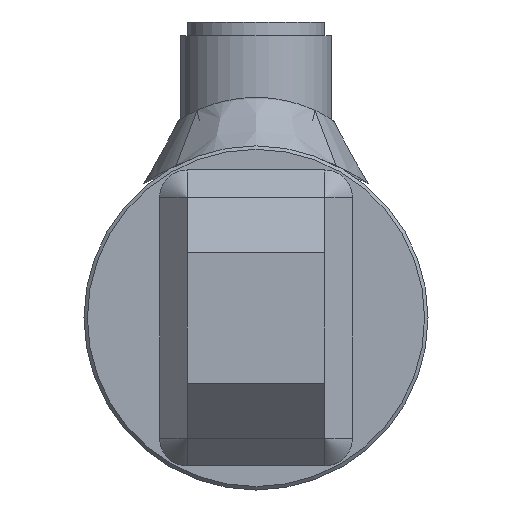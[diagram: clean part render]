
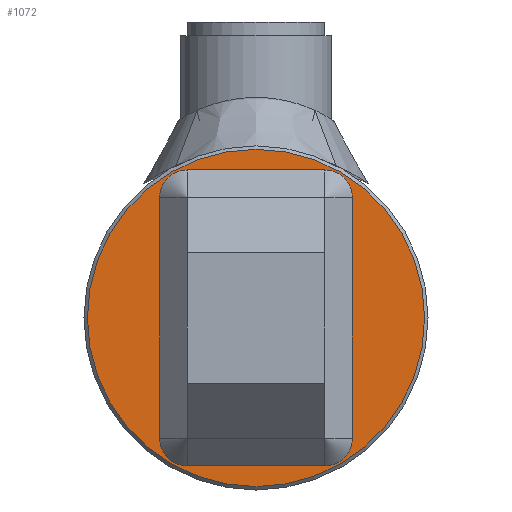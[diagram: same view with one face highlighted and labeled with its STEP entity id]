
A CAD part, left-side view. The second image highlights one B-rep face of the part: STEP entity #1072.
In plain terms, the highlighted planar face has unit normal (-1, 0, 0).
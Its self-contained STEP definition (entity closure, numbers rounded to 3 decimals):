
#1072 = ADVANCED_FACE( '', ( #1977 ), #1978, .T. );
#1977 = FACE_OUTER_BOUND( '', #4265, .T. );
#1978 = PLANE( '', #4266 );
#4265 = EDGE_LOOP( '', ( #6569 ) );
#4266 = AXIS2_PLACEMENT_3D( '', #6570, #6571, #6572 );
#6569 = ORIENTED_EDGE( '', *, *, #7542, .T. );
#6570 = CARTESIAN_POINT( '', ( -10., 0., 0. ) );
#6571 = DIRECTION( '', ( -1., 0., 0. ) );
#6572 = DIRECTION( '', ( 0., -1., 0. ) );
#7542 = EDGE_CURVE( '', #8591, #8591, #8592, .T. );
#8591 = VERTEX_POINT( '', #10314 );
#8592 = CIRCLE( '', #10315, 24.5 );
#10314 = CARTESIAN_POINT( '', ( -10., -24.5, 0. ) );
#10315 = AXIS2_PLACEMENT_3D( '', #11246, #11247, #11248 );
#11246 = CARTESIAN_POINT( '', ( -10., 0., 0. ) );
#11247 = DIRECTION( '', ( -1., 0., 0. ) );
#11248 = DIRECTION( '', ( 0., -1., 0. ) );
